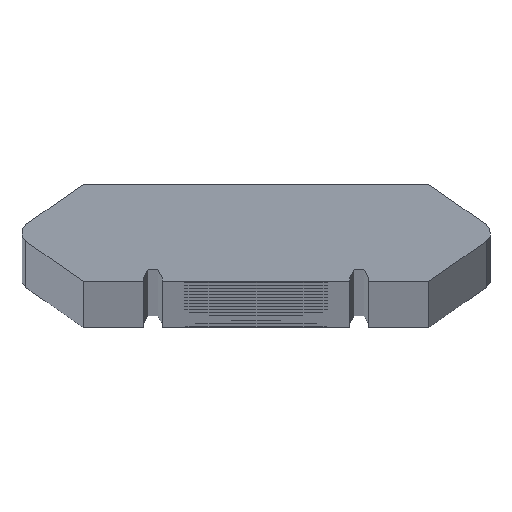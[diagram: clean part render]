
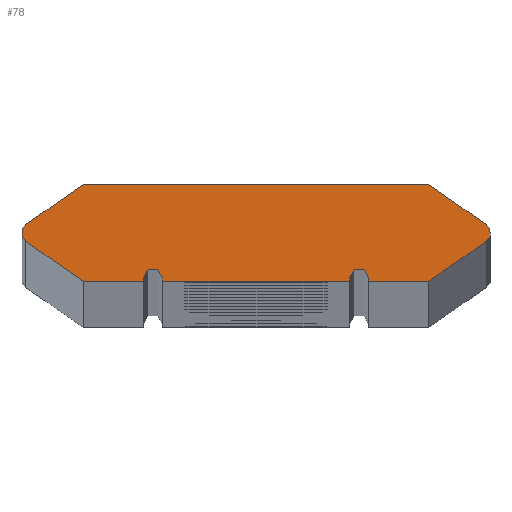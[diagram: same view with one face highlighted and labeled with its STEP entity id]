
A CAD part, top view. The second image highlights one B-rep face of the part: STEP entity #78.
In plain terms, the highlighted planar face has unit normal (0, 0, 1).
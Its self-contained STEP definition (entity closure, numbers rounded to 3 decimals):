
#78=ADVANCED_FACE('',(#164),#165,.T.);
#164=FACE_OUTER_BOUND('',#376,.T.);
#165=PLANE('',#377);
#376=EDGE_LOOP('',(#603,#604,#605,#606,#607,#608,#609,#610,#611,#612,#613,#614,#615,#616,#617,#618));
#377=AXIS2_PLACEMENT_3D('',#619,#620,#621);
#603=ORIENTED_EDGE('',*,*,#1015,.T.);
#604=ORIENTED_EDGE('',*,*,#988,.T.);
#605=ORIENTED_EDGE('',*,*,#1016,.T.);
#606=ORIENTED_EDGE('',*,*,#992,.T.);
#607=ORIENTED_EDGE('',*,*,#1014,.T.);
#608=ORIENTED_EDGE('',*,*,#1017,.T.);
#609=ORIENTED_EDGE('',*,*,#1018,.T.);
#610=ORIENTED_EDGE('',*,*,#1019,.T.);
#611=ORIENTED_EDGE('',*,*,#1020,.T.);
#612=ORIENTED_EDGE('',*,*,#1021,.T.);
#613=ORIENTED_EDGE('',*,*,#1022,.T.);
#614=ORIENTED_EDGE('',*,*,#1023,.T.);
#615=ORIENTED_EDGE('',*,*,#1024,.T.);
#616=ORIENTED_EDGE('',*,*,#1025,.T.);
#617=ORIENTED_EDGE('',*,*,#1026,.T.);
#618=ORIENTED_EDGE('',*,*,#1027,.T.);
#619=CARTESIAN_POINT('',(-12.33,0.,0.0));
#620=DIRECTION('',(0.0,0.0,1.0));
#621=DIRECTION('',(-0.574,-0.819,0.0));
#988=EDGE_CURVE('',#1100,#1101,#1102,.T.);
#992=EDGE_CURVE('',#1108,#1109,#1110,.T.);
#1014=EDGE_CURVE('',#1109,#1150,#1152,.T.);
#1015=EDGE_CURVE('',#1153,#1100,#1154,.T.);
#1016=EDGE_CURVE('',#1101,#1108,#1155,.T.);
#1017=EDGE_CURVE('',#1150,#1156,#1157,.T.);
#1018=EDGE_CURVE('',#1156,#1158,#1159,.T.);
#1019=EDGE_CURVE('',#1158,#1160,#1161,.T.);
#1020=EDGE_CURVE('',#1160,#1162,#1163,.T.);
#1021=EDGE_CURVE('',#1162,#1164,#1165,.T.);
#1022=EDGE_CURVE('',#1164,#1166,#1167,.T.);
#1023=EDGE_CURVE('',#1166,#1168,#1169,.T.);
#1024=EDGE_CURVE('',#1168,#1170,#1171,.T.);
#1025=EDGE_CURVE('',#1170,#1172,#1173,.T.);
#1026=EDGE_CURVE('',#1172,#1174,#1175,.T.);
#1027=EDGE_CURVE('',#1174,#1153,#1176,.T.);
#1100=VERTEX_POINT('',#1308);
#1101=VERTEX_POINT('',#1309);
#1102=LINE('',#1310,#1311);
#1108=VERTEX_POINT('',#1320);
#1109=VERTEX_POINT('',#1321);
#1110=LINE('',#1322,#1323);
#1150=VERTEX_POINT('',#1367);
#1152=LINE('',#1370,#1371);
#1153=VERTEX_POINT('',#1372);
#1154=LINE('',#1373,#1374);
#1155=CIRCLE('',#1375,0.545);
#1156=VERTEX_POINT('',#1376);
#1157=LINE('',#1377,#1378);
#1158=VERTEX_POINT('',#1379);
#1159=CIRCLE('',#1380,0.545);
#1160=VERTEX_POINT('',#1381);
#1161=LINE('',#1382,#1383);
#1162=VERTEX_POINT('',#1384);
#1163=LINE('',#1385,#1386);
#1164=VERTEX_POINT('',#1387);
#1165=LINE('',#1388,#1389);
#1166=VERTEX_POINT('',#1390);
#1167=CIRCLE('',#1391,0.5);
#1168=VERTEX_POINT('',#1392);
#1169=LINE('',#1393,#1394);
#1170=VERTEX_POINT('',#1395);
#1171=LINE('',#1396,#1397);
#1172=VERTEX_POINT('',#1398);
#1173=LINE('',#1399,#1400);
#1174=VERTEX_POINT('',#1401);
#1175=CIRCLE('',#1402,0.5);
#1176=LINE('',#1403,#1404);
#1308=CARTESIAN_POINT('',(9.206,-2.59,0.0));
#1309=CARTESIAN_POINT('',(12.268,-0.446,0.0));
#1310=CARTESIAN_POINT('',(-4.028,-11.857,0.0));
#1311=VECTOR('',#1556,1.0);
#1320=CARTESIAN_POINT('',(12.268,0.446,0.0));
#1321=CARTESIAN_POINT('',(9.206,2.59,0.0));
#1322=CARTESIAN_POINT('',(-4.028,11.857,0.0));
#1323=VECTOR('',#1560,1.0);
#1367=CARTESIAN_POINT('',(-9.206,2.59,0.0));
#1370=CARTESIAN_POINT('',(9.561,2.59,0.0));
#1371=VECTOR('',#1614,1.0);
#1372=CARTESIAN_POINT('',(6.,-2.59,0.0));
#1373=CARTESIAN_POINT('',(6.,-2.59,0.0));
#1374=VECTOR('',#1615,1.0);
#1375=AXIS2_PLACEMENT_3D('',#1616,#1617,#1618);
#1376=CARTESIAN_POINT('',(-12.268,0.446,0.0));
#1377=CARTESIAN_POINT('',(-12.519,0.27,0.0));
#1378=VECTOR('',#1619,1.0);
#1379=CARTESIAN_POINT('',(-12.268,-0.446,0.0));
#1380=AXIS2_PLACEMENT_3D('',#1620,#1621,#1622);
#1381=CARTESIAN_POINT('',(-9.206,-2.59,0.0));
#1382=CARTESIAN_POINT('',(-12.519,-0.27,0.0));
#1383=VECTOR('',#1623,1.0);
#1384=CARTESIAN_POINT('',(-6.,-2.59,0.0));
#1385=CARTESIAN_POINT('',(-9.561,-2.59,0.0));
#1386=VECTOR('',#1624,1.0);
#1387=CARTESIAN_POINT('',(-6.,-2.385,0.0));
#1388=CARTESIAN_POINT('',(-6.,-2.59,0.0));
#1389=VECTOR('',#1625,1.0);
#1390=CARTESIAN_POINT('',(-5.,-2.385,0.0));
#1391=AXIS2_PLACEMENT_3D('',#1626,#1627,#1628);
#1392=CARTESIAN_POINT('',(-5.,-2.59,0.0));
#1393=CARTESIAN_POINT('',(-5.,-2.385,0.0));
#1394=VECTOR('',#1629,1.0);
#1395=CARTESIAN_POINT('',(5.,-2.59,0.0));
#1396=CARTESIAN_POINT('',(-5.,-2.59,0.0));
#1397=VECTOR('',#1630,1.0);
#1398=CARTESIAN_POINT('',(5.,-2.385,0.0));
#1399=CARTESIAN_POINT('',(5.,-2.59,0.0));
#1400=VECTOR('',#1631,1.0);
#1401=CARTESIAN_POINT('',(6.0,-2.385,0.0));
#1402=AXIS2_PLACEMENT_3D('',#1632,#1633,#1634);
#1403=CARTESIAN_POINT('',(6.,-2.385,0.0));
#1404=VECTOR('',#1635,1.0);
#1556=DIRECTION('',(0.819,0.574,0.0));
#1560=DIRECTION('',(-0.819,0.574,0.0));
#1614=DIRECTION('',(-1.0,0.,0.0));
#1615=DIRECTION('',(1.0,0.,0.0));
#1616=CARTESIAN_POINT('',(11.955,0.,0.0));
#1617=DIRECTION('',(0.0,-0.0,1.0));
#1618=DIRECTION('',(0.,1.0,0.0));
#1619=DIRECTION('',(-0.819,-0.574,0.0));
#1620=CARTESIAN_POINT('',(-11.955,0.,0.0));
#1621=DIRECTION('',(0.0,-0.0,1.0));
#1622=DIRECTION('',(0.,1.0,0.0));
#1623=DIRECTION('',(0.819,-0.574,0.0));
#1624=DIRECTION('',(1.0,0.,0.0));
#1625=DIRECTION('',(0.,1.0,0.0));
#1626=CARTESIAN_POINT('',(-5.5,-2.385,0.0));
#1627=DIRECTION('',(-0.0,0.0,-1.0));
#1628=DIRECTION('',(0.,-1.0,0.0));
#1629=DIRECTION('',(0.,-1.,0.0));
#1630=DIRECTION('',(1.0,0.,0.0));
#1631=DIRECTION('',(0.,1.0,0.0));
#1632=CARTESIAN_POINT('',(5.5,-2.385,0.0));
#1633=DIRECTION('',(0.0,0.0,-1.0));
#1634=DIRECTION('',(0.,-1.0,0.0));
#1635=DIRECTION('',(0.,-1.0,0.0));
